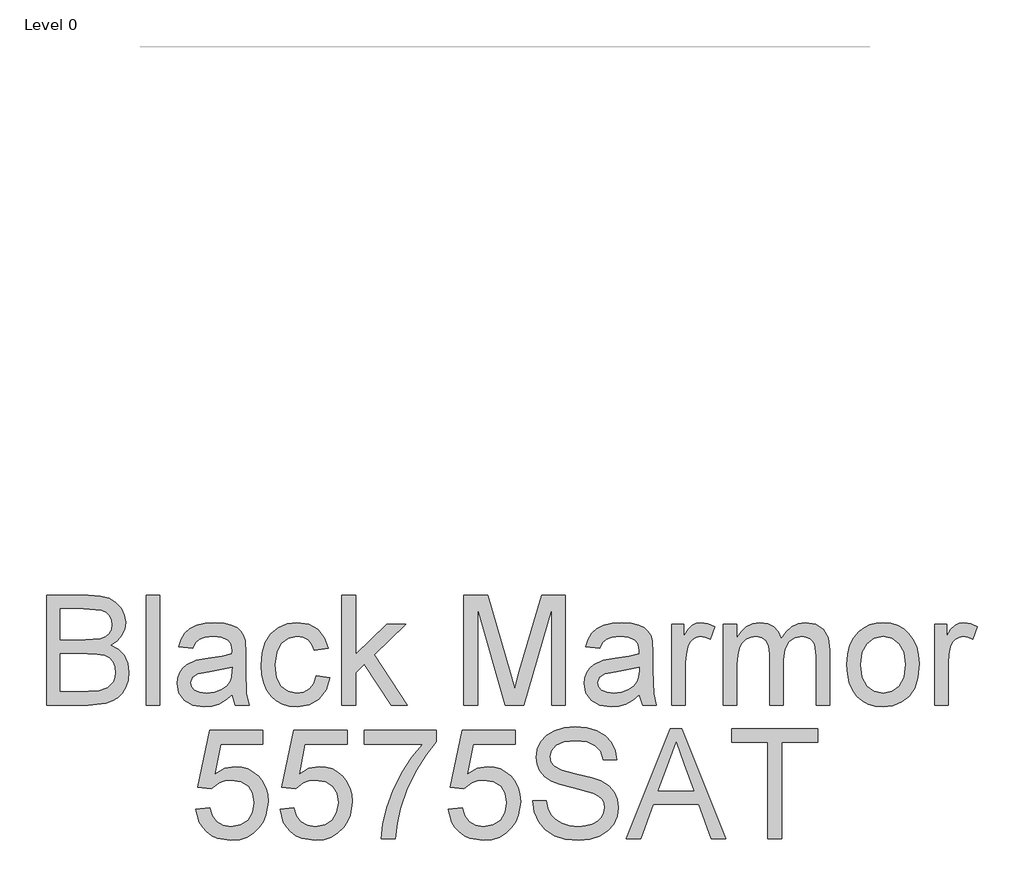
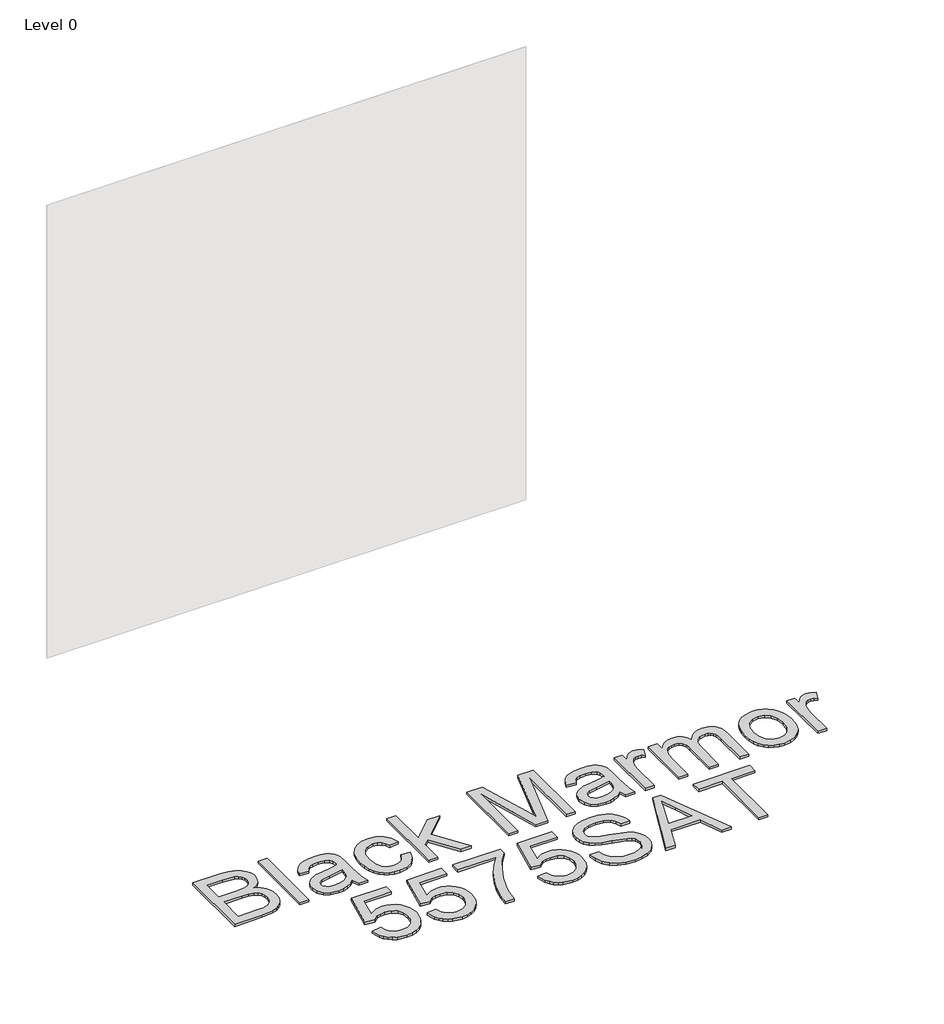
# One storey, part 3 of 29: 1 proxy.
"""IFC4 building model written with IfcOpenShell, lengths in millimetres."""

from ifc_helpers import new_model, si_unit, origin, origin_with_axes, place, context, project, spatial, polyline, outline, extrude, element, save

model = new_model("IFC4")

# Units and contexts
model_context = context("Model", 3, world=origin())
ifc_project = project(units=[si_unit("LENGTHUNIT", "METRE", prefix="MILLI")], contexts=[model_context])

# Site, building, storey
site = spatial("IfcSite", under=ifc_project)
building = spatial("IfcBuilding", under=site)
storey = spatial("IfcBuildingStorey", under=building, Name="Level 0", Elevation=0.0)

# Proxy
placement = place(None, origin())
element("IfcBuildingElementProxy", 1, Name="300mm Arial", ObjectType="300mm Arial", at=placement, inside=storey, context=model_context, shape_type="SweptSolid", body=[
    extrude(outline(polyline([(-10607.931563, -32022.860494), (-10607.931563, -31721.4915635), (-10492.9316513, -31721.4915635), (-10461.3029968, -31723.7080526), (-10436.6089179, -31730.3575196), (-10417.6813892, -31741.6055116), (-10403.3523855, -31757.6175755), (-10394.3300796, -31776.4531336), (-10391.3226443, -31796.1716086), (-10393.851833, -31814.317388), (-10401.4393991, -31831.3779155), (-10414.140525, -31846.3047274), (-10432.0103929, -31858.0493601), (-10410.6640402, -31869.1961846), (-10394.8910996, -31886.1555446), (-10385.1514238, -31907.8054), (-10381.9048652, -31933.0237108), (-10384.1213542, -31954.0389697), (-10390.7708213, -31973.5275184), (-10400.6944381, -31990.1006023), (-10412.7333764, -32002.3694669), (-10427.4762473, -32011.253817), (-10445.5116622, -32017.6733578), (-10493.8145681, -32022.860494), (-10607.931563, -32022.860494)]), holes=[polyline([(-10570.2604467, -31843.9226915), (-10501.4665136, -31843.9226915), (-10461.2937997, -31840.68533), (-10447.2315105, -31835.1027207), (-10437.1239527, -31826.7426024), (-10431.0263086, -31815.7337336), (-10428.9937606, -31802.2048733), (-10430.8883528, -31789.071486), (-10436.5721297, -31777.630356), (-10445.7875736, -31768.7000206), (-10458.2771674, -31763.0990172), (-10506.690438, -31759.1626798), (-10570.2604467, -31759.1626798), (-10570.2604467, -31843.9226915)]), polyline([(-10570.2604467, -31985.1893777), (-10493.0052277, -31985.1893777), (-10465.0461961, -31983.7178497), (-10441.3913838, -31975.5140812), (-10425.7196108, -31958.7754504), (-10421.1118888, -31946.9480443), (-10419.5759815, -31933.3915928), (-10421.3786033, -31917.6462434), (-10426.7864686, -31904.1081859), (-10436.2318388, -31893.5223815), (-10450.1469753, -31886.6337912), (-10469.8562532, -31882.8538037), (-10496.6840477, -31881.5938078), (-10570.2604467, -31881.5938078), (-10570.2604467, -31985.1893777)])]), origin_with_axes(), (0.0, 0.0, 1.0), 10.0),
    extrude(outline(polyline([(-10334.8159698, -32022.860494), (-10334.8159698, -31721.4915635), (-10297.1448535, -31721.4915635), (-10297.1448535, -32022.860494), (-10334.8159698, -32022.860494)])), origin_with_axes(), (0.0, 0.0, 1.0), 10.0),
    extrude(outline(polyline([(-10099.3714929, -31994.6071568), (-10117.3701195, -32010.0398064), (-10135.902175, -32020.1381672), (-10155.3907237, -32025.7115794), (-10176.2588299, -32027.5693835), (-10207.7403316, -32023.0996173), (-10230.9628826, -32009.6903186), (-10245.2826892, -31989.3280501), (-10250.0559581, -31963.9993748), (-10248.2533363, -31948.3827841), (-10242.845471, -31934.2009331), (-10234.5037468, -31922.0608273), (-10223.8995483, -31912.5694718), (-10197.5224092, -31900.2086368), (-10164.9280644, -31894.5432541), (-10126.4108195, -31888.5835657), (-10099.5922221, -31881.5938078), (-10099.3714929, -31873.2060983), (-10101.965061, -31856.3938912), (-10109.7457652, -31845.3942195), (-10127.1465835, -31837.2272392), (-10151.390007, -31834.5049125), (-10173.8308087, -31836.3167313), (-10189.5025817, -31841.7521878), (-10200.1895537, -31851.8045633), (-10207.6759523, -31867.4671392), (-10245.3470686, -31862.7582497), (-10238.8079661, -31842.156858), (-10229.0498962, -31825.9700502), (-10215.1623509, -31813.590821), (-10196.2348222, -31804.4121652), (-10173.0858477, -31798.7283884), (-10146.5339647, -31796.8337961), (-10121.0673336, -31798.5076592), (-10100.8798091, -31803.5292485), (-10085.6586915, -31811.0800264), (-10075.0912812, -31820.3414556), (-10068.0831292, -31831.7917827), (-10063.5397866, -31845.9092543), (-10061.7003766, -31878.8714811), (-10061.7003766, -31925.7396473), (-10059.7873902, -31991.1858542), (-10052.2825975, -32022.860494), (-10089.9537138, -32022.860494), (-10099.3714929, -31994.6071568)]), holes=[polyline([(-10099.3714929, -31919.2649241), (-10160.1455985, -31930.8164188), (-10192.5560023, -31936.9232599), (-10207.2344939, -31946.8560738), (-10212.3848418, -31961.3506244), (-10209.5797416, -31972.5526311), (-10201.164441, -31981.7312869), (-10187.3228809, -31987.8565221), (-10168.2390024, -31989.8982672), (-10148.0054927, -31987.64499), (-10130.1264277, -31980.8851583), (-10115.6318771, -31970.9247533), (-10105.5519104, -31959.069756), (-10101.0821442, -31946.8560738), (-10099.5922221, -31929.933502), (-10099.3714929, -31919.2649241)])]), origin_with_axes(), (0.0, 0.0, 1.0), 10.0),
    extrude(outline(polyline([(-9868.6359055, -31942.8093718), (-9830.9647892, -31947.5182614), (-9841.4678202, -31981.0231141), (-9861.2046892, -32006.3425924), (-9888.3175923, -32022.2626857), (-9920.9487252, -32027.5693835), (-9942.0766481, -32025.7184772), (-9961.0202716, -32020.1657584), (-9977.7795957, -32010.9112269), (-9992.3546205, -31997.9548829), (-10004.1521362, -31981.5404481), (-10012.5789332, -31961.9116444), (-10017.6350114, -31939.0684718), (-10019.3203707, -31913.0109302), (-10016.4416941, -31879.4876834), (-10007.8056643, -31850.4342028), (-9993.2743255, -31826.9725286), (-9972.709722, -31810.2247008), (-9948.1076135, -31800.1815223), (-9921.46376, -31796.8337961), (-9889.6327704, -31801.4323211), (-9864.1845334, -31815.2278959), (-9845.9283894, -31837.4847566), (-9835.6736787, -31867.4671392), (-9873.3447951, -31872.1760288), (-9880.1782031, -31855.7409006), (-9890.8191898, -31843.9594797), (-9904.679144, -31836.8685543), (-9921.1694544, -31834.5049125), (-9945.5140455, -31839.1586197), (-9964.8370473, -31853.1197414), (-9977.4462026, -31877.1424357), (-9981.6492544, -31911.9808606), (-9977.5381731, -31947.2883351), (-9965.2049293, -31971.3938029), (-9946.2314153, -31985.2721511), (-9922.199524, -31989.8982672), (-9902.6925812, -31987.0103936), (-9886.6989115, -31978.3467726), (-9875.0646434, -31963.6866751), (-9868.6359055, -31942.8093718)])), origin_with_axes(), (0.0, 0.0, 1.0), 10.0),
    extrude(outline(polyline([(-9798.0025624, -32022.860494), (-9798.0025624, -31721.4915635), (-9760.3314461, -31721.4915635), (-9760.3314461, -31883.4332178), (-9675.86574, -31801.5426857), (-9623.7736495, -31801.5426857), (-9709.2694252, -31884.4632874), (-9619.06476, -32022.860494), (-9663.0634466, -32022.860494), (-9736.2719637, -31910.6564855), (-9760.3314461, -31933.9802039), (-9760.3314461, -32022.860494), (-9798.0025624, -32022.860494)])), origin_with_axes(), (0.0, 0.0, 1.0), 10.0),
    extrude(outline(polyline([(-9463.6714052, -32022.860494), (-9463.6714052, -31721.4915635), (-9398.8505977, -31721.4915635), (-9337.1935753, -31933.9066275), (-9324.7591638, -31978.2731962), (-9311.2946828, -31930.2278076), (-9250.66773, -31721.4915635), (-9185.8469225, -31721.4915635), (-9185.8469225, -32022.860494), (-9223.5180388, -32022.860494), (-9223.5180388, -31759.1626798), (-9299.2281534, -32022.860494), (-9350.2901743, -32022.860494), (-9426.0002889, -31759.1626798), (-9426.0002889, -32022.860494), (-9463.6714052, -32022.860494)])), origin_with_axes(), (0.0, 0.0, 1.0), 10.0),
    extrude(outline(polyline([(-8983.3646723, -31994.6071568), (-9001.3632989, -32010.0398064), (-9019.8953544, -32020.1381672), (-9039.3839031, -32025.7115794), (-9060.2520093, -32027.5693835), (-9091.7335111, -32023.0996173), (-9114.956062, -32009.6903186), (-9129.2758687, -31989.3280501), (-9134.0491375, -31963.9993748), (-9132.2465158, -31948.3827841), (-9126.8386504, -31934.2009331), (-9118.4969262, -31922.0608273), (-9107.8927277, -31912.5694718), (-9081.5155886, -31900.2086368), (-9048.9212439, -31894.5432541), (-9010.403999, -31888.5835657), (-8983.5854015, -31881.5938078), (-8983.3646723, -31873.2060983), (-8985.9582404, -31856.3938912), (-8993.7389446, -31845.3942195), (-9011.139763, -31837.2272392), (-9035.3831864, -31834.5049125), (-9057.8239881, -31836.3167313), (-9073.4957611, -31841.7521878), (-9084.1827331, -31851.8045633), (-9091.6691317, -31867.4671392), (-9129.340248, -31862.7582497), (-9122.8011455, -31842.156858), (-9113.0430756, -31825.9700502), (-9099.1555303, -31813.590821), (-9080.2280017, -31804.4121652), (-9057.0790271, -31798.7283884), (-9030.5271441, -31796.8337961), (-9005.060513, -31798.5076592), (-8984.8729885, -31803.5292485), (-8969.651871, -31811.0800264), (-8959.0844606, -31820.3414556), (-8952.0763086, -31831.7917827), (-8947.532966, -31845.9092543), (-8945.693556, -31878.8714811), (-8945.693556, -31925.7396473), (-8943.7805696, -31991.1858542), (-8936.2757769, -32022.860494), (-8973.9468932, -32022.860494), (-8983.3646723, -31994.6071568)]), holes=[polyline([(-8983.3646723, -31919.2649241), (-9044.1387779, -31930.8164188), (-9076.5491817, -31936.9232599), (-9091.2276733, -31946.8560738), (-9096.3780212, -31961.3506244), (-9093.572921, -31972.5526311), (-9085.1576204, -31981.7312869), (-9071.3160603, -31987.8565221), (-9052.2321818, -31989.8982672), (-9031.9986721, -31987.64499), (-9014.1196071, -31980.8851583), (-8999.6250565, -31970.9247533), (-8989.5450898, -31959.069756), (-8985.0753236, -31946.8560738), (-8983.5854015, -31929.933502), (-8983.3646723, -31919.2649241)])]), origin_with_axes(), (0.0, 0.0, 1.0), 10.0),
    extrude(outline(polyline([(-8893.8957711, -32022.860494), (-8893.8957711, -31801.5426857), (-8860.9335443, -31801.5426857), (-8860.9335443, -31834.2841833), (-8848.7566503, -31815.3014723), (-8837.5362494, -31804.1178596), (-8826.2790604, -31798.654812), (-8813.9918017, -31796.8337961), (-8795.22982, -31799.7400639), (-8776.1735326, -31808.4588672), (-8788.7550969, -31842.2304343), (-8801.9988487, -31836.4362929), (-8815.2426005, -31834.5049125), (-8826.4905925, -31836.3627165), (-8836.542968, -31841.9361288), (-8844.6639631, -31850.8020848), (-8850.1178137, -31862.5375205), (-8854.6979445, -31883.5803706), (-8856.2246548, -31906.5362071), (-8856.2246548, -32022.860494), (-8893.8957711, -32022.860494)])), origin_with_axes(), (0.0, 0.0, 1.0), 10.0),
    extrude(outline(polyline([(-8752.6290849, -32022.860494), (-8752.6290849, -31801.5426857), (-8714.9579686, -31801.5426857), (-8714.9579686, -31837.9630032), (-8703.6272032, -31821.2335695), (-8689.0590762, -31808.1277734), (-8671.7502283, -31799.6572905), (-8652.1973003, -31796.8337961), (-8631.2464206, -31799.7124728), (-8614.4526076, -31808.3485026), (-8601.9078315, -31822.1716686), (-8593.704063, -31840.6117536), (-8579.9728676, -31821.4588972), (-8564.3102916, -31807.7782855), (-8546.7163352, -31799.5699185), (-8527.1909983, -31796.8337961), (-8498.8732817, -31801.3863358), (-8477.9315991, -31815.0439549), (-8464.99135, -31838.1745354), (-8460.6779336, -31871.1459592), (-8460.6779336, -32022.860494), (-8498.3490499, -32022.860494), (-8498.3490499, -31887.332767), (-8501.8439288, -31855.8788564), (-8506.7551535, -31847.2060383), (-8514.4990695, -31840.3910244), (-8524.4594745, -31835.9764404), (-8536.0201662, -31834.5049125), (-8556.4284199, -31838.2757029), (-8573.0658831, -31849.5880743), (-8584.1299341, -31869.2145787), (-8587.8179511, -31897.9277684), (-8587.8179511, -32022.860494), (-8625.4890674, -32022.860494), (-8625.4890674, -31883.1389122), (-8627.6687682, -31861.8385447), (-8634.2078707, -31846.6450183), (-8645.7133801, -31837.5399389), (-8662.7923017, -31834.5049125), (-8677.3052464, -31836.5282634), (-8690.677757, -31842.5983163), (-8701.7142168, -31852.5679184), (-8709.2190095, -31866.2899168), (-8713.5232289, -31885.3278101), (-8714.9579686, -31911.2450966), (-8714.9579686, -32022.860494), (-8752.6290849, -32022.860494)])), origin_with_axes(), (0.0, 0.0, 1.0), 10.0),
    extrude(outline(polyline([(-8413.5890382, -31912.2015898), (-8411.5518916, -31883.5389839), (-8405.440452, -31858.8403064), (-8395.2547193, -31838.1055575), (-8380.9946934, -31821.334737), (-8366.6380986, -31810.6155754), (-8350.7915816, -31802.9590314), (-8333.4551426, -31798.3651049), (-8314.6287815, -31796.8337961), (-8293.845748, -31798.698498), (-8275.0538759, -31804.2926036), (-8258.253165, -31813.6161129), (-8243.4436154, -31826.669026), (-8231.3563926, -31843.0098843), (-8222.722662, -31862.1972296), (-8217.5424237, -31884.2310619), (-8215.8156776, -31909.1113811), (-8218.8690981, -31947.1687735), (-8228.0293598, -31976.1394806), (-8243.0297482, -31997.8353213), (-8263.6035488, -32014.0681143), (-8288.0401103, -32024.1940662), (-8314.6287815, -32027.5693835), (-8335.7153176, -32025.7115794), (-8354.6819337, -32020.1381672), (-8371.5286298, -32010.8491468), (-8386.255406, -31997.8445183), (-8398.2138701, -31981.3450108), (-8406.7556301, -31961.5713536), (-8411.8806862, -31938.5235466), (-8413.5890382, -31912.2015898)]), holes=[polyline([(-8375.9179219, -31912.1280134), (-8371.5585202, -31946.2214773), (-8358.4803153, -31970.5108861), (-8338.7986286, -31985.0514219), (-8314.6287815, -31989.8982672), (-8290.569299, -31985.0238308), (-8270.9244005, -31970.4005215), (-8257.8461955, -31945.789216), (-8253.4867939, -31910.950791), (-8257.8737867, -31877.8506085), (-8271.0347651, -31853.8922936), (-8290.7072548, -31839.3517577), (-8314.6287815, -31834.5049125), (-8338.7986286, -31839.3333636), (-8358.4803153, -31853.8187172), (-8371.5585202, -31878.0529436), (-8375.9179219, -31912.1280134)])]), origin_with_axes(), (0.0, 0.0, 1.0), 10.0),
    extrude(outline(polyline([(-8173.4356717, -32022.860494), (-8173.4356717, -31801.5426857), (-8140.473445, -31801.5426857), (-8140.473445, -31834.2841833), (-8128.2965509, -31815.3014723), (-8117.0761501, -31804.1178596), (-8105.818961, -31798.654812), (-8093.5317024, -31796.8337961), (-8074.7697206, -31799.7400639), (-8055.7134333, -31808.4588672), (-8068.2949975, -31842.2304343), (-8081.5387493, -31836.4362929), (-8094.7825012, -31834.5049125), (-8106.0304932, -31836.3627165), (-8116.0828687, -31841.9361288), (-8124.2038637, -31850.8020848), (-8129.6577143, -31862.5375205), (-8134.2378452, -31883.5803706), (-8135.7645554, -31906.5362071), (-8135.7645554, -32022.860494), (-8173.4356717, -32022.860494)])), origin_with_axes(), (0.0, 0.0, 1.0), 10.0),
    extrude(outline(polyline([(-10198.2581732, -32308.7338254), (-10160.5870569, -32304.0249358), (-10153.6708754, -32326.6404815), (-10141.6043459, -32342.8364863), (-10124.4426509, -32352.5761621), (-10102.2409725, -32355.8227207), (-10075.238434, -32351.3069693), (-10055.0049243, -32337.7597148), (-10042.3681777, -32316.7444558), (-10038.1559289, -32289.8246908), (-10042.1014633, -32264.4776213), (-10053.9380665, -32245.0902402), (-10073.757709, -32232.7845875), (-10101.6523613, -32228.6827032), (-10119.9268994, -32230.3197781), (-10134.7249526, -32235.2310027), (-10155.8781674, -32252.2271509), (-10193.5492837, -32247.5182614), (-10160.5870569, -32092.1249066), (-10014.6114812, -32092.1249066), (-10014.6114812, -32129.7960229), (-10130.1264277, -32129.7960229), (-10146.2396591, -32212.790201), (-10119.3290911, -32196.4562404), (-10091.1309362, -32191.0115869), (-10072.785121, -32192.6992456), (-10055.9338263, -32197.7622215), (-10040.5770523, -32206.2005148), (-10026.7147988, -32218.0141254), (-10015.2391799, -32232.4810848), (-10007.0423092, -32248.8794248), (-10002.1241867, -32267.2091452), (-10000.4848126, -32287.470246), (-10006.3893186, -32325.1413624), (-10013.7699511, -32341.9351754), (-10024.1028367, -32357.3678251), (-10039.7562156, -32373.1729553), (-10058.0215566, -32384.4623341), (-10078.8988599, -32391.2359613), (-10102.3881253, -32393.4938371), (-10139.3878569, -32387.6904986), (-10155.0665277, -32380.4363255), (-10168.8644018, -32370.2804832), (-10180.3446193, -32357.7288093), (-10189.0703204, -32343.2871418), (-10198.2581732, -32308.7338254)])), origin_with_axes(), (0.0, 0.0, 1.0), 10.0),
    extrude(outline(polyline([(-9967.5225858, -32308.7338254), (-9929.8514695, -32304.0249358), (-9922.935288, -32326.6404815), (-9910.8687586, -32342.8364863), (-9893.7070635, -32352.5761621), (-9871.5053851, -32355.8227207), (-9844.5028466, -32351.3069693), (-9824.2693369, -32337.7597148), (-9811.6325904, -32316.7444558), (-9807.4203415, -32289.8246908), (-9811.3658759, -32264.4776213), (-9823.2024791, -32245.0902402), (-9843.0221216, -32232.7845875), (-9870.9167739, -32228.6827032), (-9889.191312, -32230.3197781), (-9903.9893653, -32235.2310027), (-9925.14258, -32252.2271509), (-9962.8136963, -32247.5182614), (-9929.8514695, -32092.1249066), (-9783.8758938, -32092.1249066), (-9783.8758938, -32129.7960229), (-9899.3908403, -32129.7960229), (-9915.5040717, -32212.790201), (-9888.5935038, -32196.4562404), (-9860.3953488, -32191.0115869), (-9842.0495336, -32192.6992456), (-9825.1982389, -32197.7622215), (-9809.8414649, -32206.2005148), (-9795.9792115, -32218.0141254), (-9784.5035925, -32232.4810848), (-9776.3067218, -32248.8794248), (-9771.3885994, -32267.2091452), (-9769.7492252, -32287.470246), (-9775.6537312, -32325.1413624), (-9783.0343638, -32341.9351754), (-9793.3672493, -32357.3678251), (-9809.0206282, -32373.1729553), (-9827.2859693, -32384.4623341), (-9848.1632725, -32391.2359613), (-9871.6525379, -32393.4938371), (-9908.6522695, -32387.6904986), (-9924.3309403, -32380.4363255), (-9938.1288144, -32370.2804832), (-9949.6090319, -32357.7288093), (-9958.334733, -32343.2871418), (-9967.5225858, -32308.7338254)])), origin_with_axes(), (0.0, 0.0, 1.0), 10.0),
    extrude(outline(polyline([(-9736.7869984, -32129.7960229), (-9736.7869984, -32092.1249066), (-9539.0136378, -32092.1249066), (-9539.0136378, -32122.5855358), (-9567.2025957, -32158.2608923), (-9595.1156421, -32203.6299393), (-9619.7361446, -32254.5540045), (-9638.0474709, -32306.8944154), (-9647.0237916, -32346.0554538), (-9652.0269868, -32388.7849475), (-9689.6981031, -32388.7849475), (-9685.62381, -32349.9550029), (-9674.7253059, -32303.8042066), (-9657.2968963, -32254.8850983), (-9633.632887, -32207.7502177), (-9606.0049492, -32165.1402856), (-9576.6847541, -32129.7960229), (-9736.7869984, -32129.7960229)])), origin_with_axes(), (0.0, 0.0, 1.0), 10.0),
    extrude(outline(polyline([(-9506.0514111, -32308.7338254), (-9468.3802948, -32304.0249358), (-9461.4641133, -32326.6404815), (-9449.3975838, -32342.8364863), (-9432.2358887, -32352.5761621), (-9410.0342103, -32355.8227207), (-9383.0316719, -32351.3069693), (-9362.7981621, -32337.7597148), (-9350.1614156, -32316.7444558), (-9345.9491668, -32289.8246908), (-9349.8947012, -32264.4776213), (-9361.7313044, -32245.0902402), (-9381.5509469, -32232.7845875), (-9409.4455991, -32228.6827032), (-9427.7201372, -32230.3197781), (-9442.5181905, -32235.2310027), (-9463.6714052, -32252.2271509), (-9501.3425215, -32247.5182614), (-9468.3802948, -32092.1249066), (-9322.4047191, -32092.1249066), (-9322.4047191, -32129.7960229), (-9437.9196656, -32129.7960229), (-9454.032897, -32212.790201), (-9427.122329, -32196.4562404), (-9398.9241741, -32191.0115869), (-9380.5783588, -32192.6992456), (-9363.7270642, -32197.7622215), (-9348.3702901, -32206.2005148), (-9334.5080367, -32218.0141254), (-9323.0324177, -32232.4810848), (-9314.835547, -32248.8794248), (-9309.9174246, -32267.2091452), (-9308.2780505, -32287.470246), (-9314.1825565, -32325.1413624), (-9321.563189, -32341.9351754), (-9331.8960746, -32357.3678251), (-9347.5494534, -32373.1729553), (-9365.8147945, -32384.4623341), (-9386.6920977, -32391.2359613), (-9410.1813631, -32393.4938371), (-9447.1810948, -32387.6904986), (-9462.8597656, -32380.4363255), (-9476.6576397, -32370.2804832), (-9488.1378572, -32357.7288093), (-9496.8635582, -32343.2871418), (-9506.0514111, -32308.7338254)])), origin_with_axes(), (0.0, 0.0, 1.0), 10.0),
    extrude(outline(polyline([(-9275.3158237, -32285.1893777), (-9237.6447074, -32285.1893777), (-9233.3220939, -32306.0942721), (-9225.5046015, -32322.8972822), (-9213.3093134, -32336.2330045), (-9195.8533127, -32346.7360355), (-9174.516157, -32353.5510494), (-9150.6774037, -32355.8227207), (-9129.6897359, -32354.1028724), (-9111.3140302, -32348.9433274), (-9096.4240065, -32340.7763471), (-9085.8933844, -32330.0341929), (-9079.6301934, -32317.700949), (-9077.5424631, -32304.7606998), (-9079.1059616, -32292.1515444), (-9083.796457, -32281.2530403), (-9093.3246007, -32271.9548229), (-9109.4010439, -32264.1465276), (-9164.2522494, -32249.7623415), (-9200.2586996, -32240.2433949), (-9223.2973096, -32231.1843008), (-9242.0500943, -32218.510766), (-9255.3398314, -32203.1516928), (-9263.2584913, -32185.4381747), (-9265.8980446, -32165.7013056), (-9262.6330919, -32143.637583), (-9252.8382338, -32123.0637824), (-9236.7709877, -32105.6261758), (-9214.6888709, -32092.9710352), (-9188.1829731, -32085.2731044), (-9158.844384, -32082.7071275), (-9127.0593796, -32085.3926661), (-9099.2475008, -32093.4492818), (-9076.4020289, -32106.7114277), (-9059.5162453, -32125.013557), (-9048.8292734, -32147.2152354), (-9044.5802363, -32172.1760288), (-9082.2513526, -32172.1760288), (-9089.1675341, -32149.6984389), (-9103.5885083, -32133.4748429), (-9126.1212806, -32123.6523936), (-9157.372856, -32120.3782438), (-9189.3601955, -32123.6156054), (-9211.3043565, -32133.3276901), (-9223.9962854, -32147.6199056), (-9228.2269283, -32164.5976597), (-9225.2286901, -32179.0738162), (-9216.2339753, -32190.7172813), (-9194.9703959, -32201.1283418), (-9154.7241057, -32211.7601314), (-9113.1902284, -32221.8584922), (-9088.0638882, -32230.669266), (-9066.5887767, -32244.3360821), (-9051.6067824, -32261.2034716), (-9042.8052057, -32281.0874934), (-9039.8713468, -32303.8042066), (-9043.2466641, -32327.0267576), (-9053.372616, -32348.869751), (-9069.8353353, -32367.668521), (-9092.2209547, -32381.7584014), (-9119.1407197, -32390.5599781), (-9149.2058757, -32393.4938371), (-9186.1136369, -32390.3300519), (-9216.4914927, -32380.8386964), (-9240.6889309, -32364.9829824), (-9259.0554395, -32342.7261217), (-9270.8460575, -32315.6132187), (-9275.3158237, -32285.1893777)])), origin_with_axes(), (0.0, 0.0, 1.0), 10.0),
    extrude(outline(polyline([(-9018.4606147, -32388.7849475), (-8898.1632022, -32087.4160171), (-8866.0838923, -32087.4160171), (-8745.7864798, -32388.7849475), (-8785.5913117, -32388.7849475), (-8820.0986429, -32294.6071568), (-8944.222028, -32294.6071568), (-8978.6557828, -32388.7849475), (-9018.4606147, -32388.7849475)]), holes=[polyline([(-8930.389665, -32256.9360404), (-8833.8574295, -32256.9360404), (-8861.0071207, -32182.8446066), (-8882.1235473, -32125.0871334), (-8900.885529, -32176.3698835), (-8930.389665, -32256.9360404)])]), origin_with_axes(), (0.0, 0.0, 1.0), 10.0),
    extrude(outline(polyline([(-8630.197957, -32388.7849475), (-8630.197957, -32125.0871334), (-8729.0846373, -32125.0871334), (-8729.0846373, -32087.4160171), (-8493.6401603, -32087.4160171), (-8493.6401603, -32125.0871334), (-8592.5268406, -32125.0871334), (-8592.5268406, -32388.7849475), (-8630.197957, -32388.7849475)])), origin_with_axes(), (0.0, 0.0, 1.0), 10.0),
])

save(model, "model.ifc")
